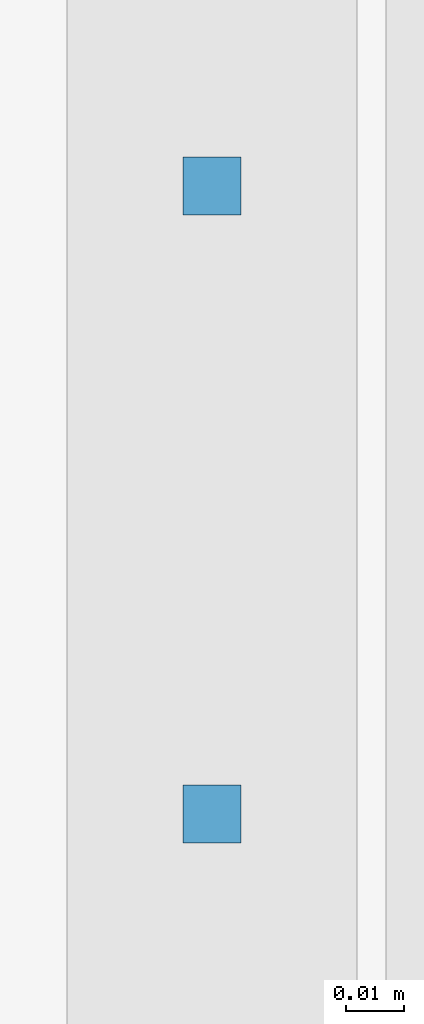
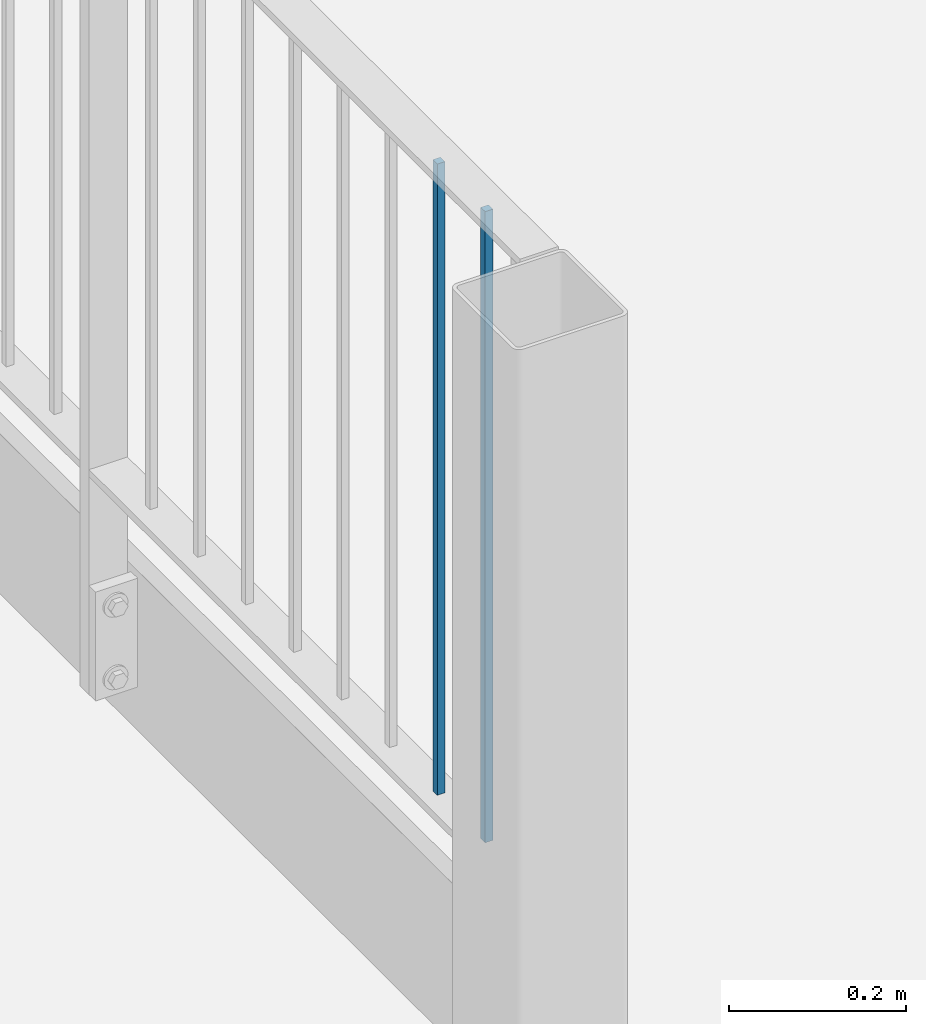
# One storey, part 40 of 78: 2 beams, 1 element without a shape of its own.
"""IFC2X3 building model written with IfcOpenShell, lengths in millimetres."""

from ifc_helpers import new_model, si_unit, frame, origin_with_axes, origin_2d_with_axis, place, context, subcontext, project, spatial, rectangle, extrude, clip, halfspace, material, type_object, element, aggregate, save


model = new_model("IFC2X3")

# Units and contexts
model_context = context("Model", 3, precision=1e-05, world=origin_with_axes())
body_context = subcontext(model_context, "Body", "Model", "MODEL_VIEW")
ifc_project = project(units=[si_unit("LENGTHUNIT", "METRE", prefix="MILLI"), si_unit("AREAUNIT", "SQUARE_METRE"), si_unit("VOLUMEUNIT", "CUBIC_METRE"), si_unit("MASSUNIT", "GRAM", prefix="KILO"), si_unit("TIMEUNIT", "SECOND"), si_unit("PLANEANGLEUNIT", "RADIAN"), si_unit("SOLIDANGLEUNIT", "STERADIAN"), si_unit("THERMODYNAMICTEMPERATUREUNIT", "DEGREE_CELSIUS"), si_unit("LUMINOUSINTENSITYUNIT", "LUMEN")], contexts=[model_context])

# Site, building, storey
site_placement = place(None, origin_with_axes())
site = spatial("IfcSite", under=ifc_project, at=site_placement, Name="Site", CompositionType="ELEMENT")
building_placement = place(site_placement, origin_with_axes())
building = spatial("IfcBuilding", under=site, at=building_placement, Name="Undefined", CompositionType="ELEMENT")
storey_placement = place(building_placement, origin_with_axes())
storey = spatial("IfcBuildingStorey", under=building, at=storey_placement, Name="Undefined", CompositionType="ELEMENT", Elevation=0.0)

# Assembly, beams
assembly_placement = place(storey_placement, origin_with_axes())
assembly = element("IfcElementAssembly", 1, at=assembly_placement, inside=storey, Name="MAIN_COURANTE", AssemblyPlace="NOTDEFINED", PredefinedType="RIGID_FRAME")
ifc_material = material(Name="STEEL/S235JR")
beam_type = type_object("IfcBeamType", Name="PL10*10", PredefinedType="NOTDEFINED")
beam_1_placement = place(assembly_placement, frame((-35341.43, 7206.14814814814, 157695.04), z_axis=(1.0, 0.0, 0.0), x_axis=(0.0, 0.0, -1.0)))
beam_1 = element("IfcBeam", 2, at=beam_1_placement, type_object=beam_type, material=ifc_material, Name="LISSE", ObjectType="PL10*10", context=body_context, shape_type="Clipping", body=[
    clip(clip(extrude(rectangle(XDim=10.0, YDim=10.0, at=origin_2d_with_axis()), frame((880.0, 0.0, 0.0), z_axis=(-1.0, 0.0, 0.0), x_axis=(0.0, -1.0, 0.0)), (0.0, 0.0, 1.0), 880.0), halfspace(frame((875.0, 0.0, 1005.0), z_axis=(1.0, 0.0, 0.0), x_axis=(0.0, 1.0, 0.0)), False)), halfspace(frame((5.0, 0.0, 1005.0), z_axis=(-1.0, 0.0, 0.0), x_axis=(0.0, -1.0, 0.0)), False)),
])
beam_2_placement = place(assembly_placement, frame((-35341.43, 7314.29629629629, 157695.04), z_axis=(1.0, 0.0, 0.0), x_axis=(0.0, 0.0, -1.0)))
beam_2 = element("IfcBeam", 3, at=beam_2_placement, type_object=beam_type, material=ifc_material, Name="LISSE", ObjectType="PL10*10", context=body_context, shape_type="Clipping", body=[
    clip(clip(extrude(rectangle(XDim=10.0, YDim=10.0, at=origin_2d_with_axis()), frame((880.0, 0.0, 0.0), z_axis=(-1.0, 0.0, 0.0), x_axis=(0.0, -1.0, 0.0)), (0.0, 0.0, 1.0), 880.0), halfspace(frame((875.0, 0.0, 1005.0), z_axis=(1.0, 0.0, 0.0), x_axis=(0.0, 1.0, 0.0)), False)), halfspace(frame((5.0, 0.0, 1005.0), z_axis=(-1.0, 0.0, 0.0), x_axis=(0.0, -1.0, 0.0)), False)),
])
aggregate(assembly, [beam_1, beam_2])

save(model, "model.ifc")
